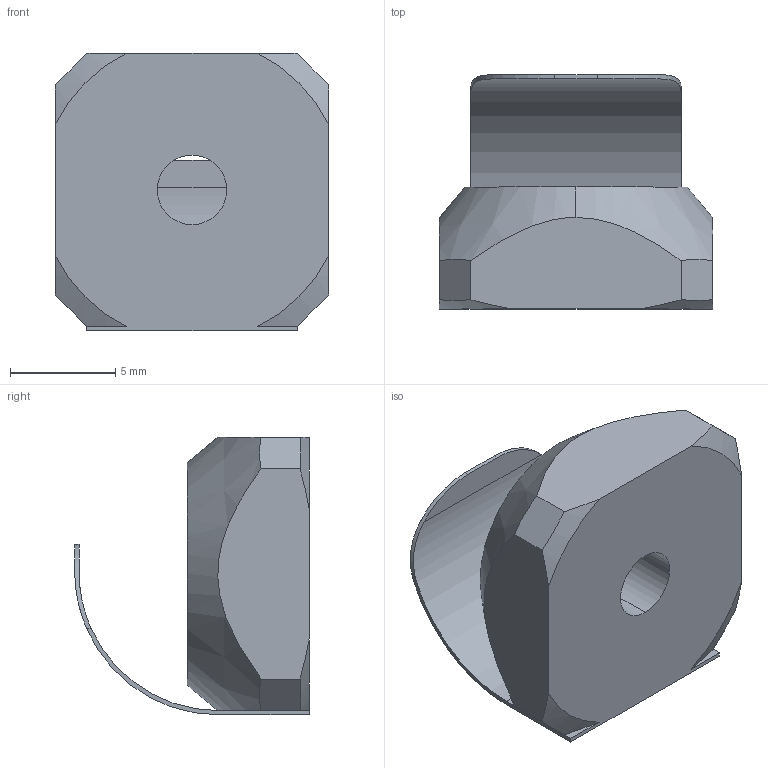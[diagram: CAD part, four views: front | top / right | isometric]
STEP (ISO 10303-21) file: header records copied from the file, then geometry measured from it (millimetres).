
FILE_DESCRIPTION (( 'STEP AP214' ), '1' );
FILE_NAME ('1.2011 Neliömutteri M4 kiinnityslevyllä.STEP', '2023-12-08T13:34:47', ( '' ), ( '' ), 'SwSTEP 2.0', 'SolidWorks 2019', '' );
FILE_SCHEMA (( 'AUTOMOTIVE_DESIGN' ));
Length unit declared in the file: millimetre
Products named in the file (1): 1.2011 Neliömutteri M4 kiinnityslevyllä
Bounding box: 13 x 11.15 x 13.2 mm (x, y, z)
Volume: 827.7 mm3; surface area: 821.5 mm2
Topology: 1 solids, 1 shells, 35 faces, 88 edges, 55 vertices
Faces by surface type: plane 21, cone 8, cylinder 6
Entity records: 1205 total; most frequent: CARTESIAN_POINT 344, ORIENTED_EDGE 176, DIRECTION 153, EDGE_CURVE 88, AXIS2_PLACEMENT_3D 56, VERTEX_POINT 55, LINE 41, VECTOR 41
